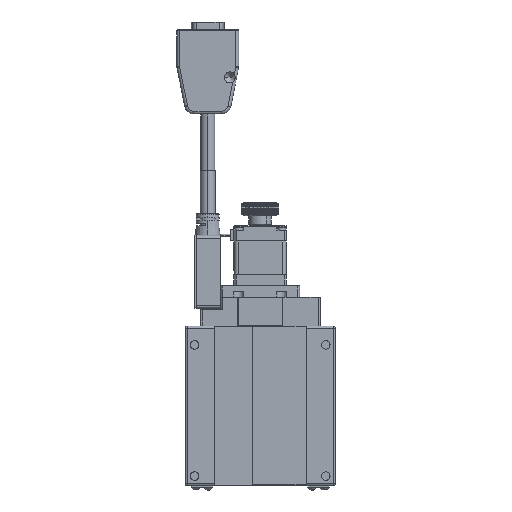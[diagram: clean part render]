
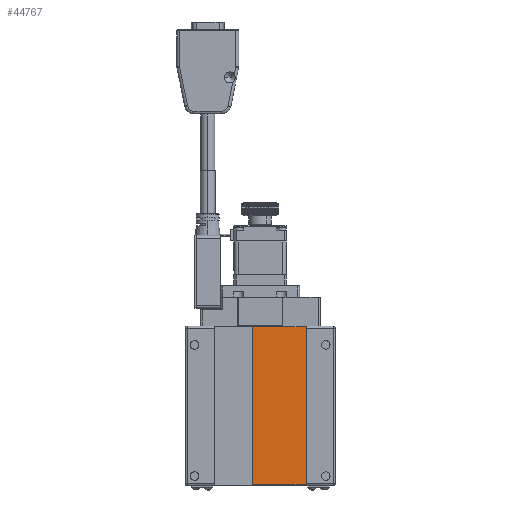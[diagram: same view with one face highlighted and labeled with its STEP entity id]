
A CAD part, front view. The second image highlights one B-rep face of the part: STEP entity #44767.
In plain terms, the highlighted planar face has unit normal (0, -1, 0).
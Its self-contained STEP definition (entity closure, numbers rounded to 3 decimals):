
#819 = DIRECTION ( 'NONE',  ( 1., 0., 0. ) ) ;
#1082 = VECTOR ( 'NONE', #17774, 1000. ) ;
#4040 = DIRECTION ( 'NONE',  ( 0., 1., 0. ) ) ;
#7931 = VECTOR ( 'NONE', #819, 1000. ) ;
#10798 = PLANE ( 'NONE',  #87408 ) ;
#12574 = VECTOR ( 'NONE', #79628, 1000. ) ;
#17774 = DIRECTION ( 'NONE',  ( -1., 0., 0. ) ) ;
#28338 = VERTEX_POINT ( 'NONE', #57038 ) ;
#30479 = CARTESIAN_POINT ( 'NONE',  ( 24.5, 0.3, 84.714 ) ) ;
#32304 = ORIENTED_EDGE ( 'NONE', *, *, #59022, .F. ) ;
#38008 = CARTESIAN_POINT ( 'NONE',  ( 24.5, 0.3, 85. ) ) ;
#38383 = CARTESIAN_POINT ( 'NONE',  ( 24.5, 0.3, 85. ) ) ;
#40054 = CARTESIAN_POINT ( 'NONE',  ( -4.1, 0.3, 0.286 ) ) ;
#44767 = ADVANCED_FACE ( 'NONE', ( #58736 ), #10798, .F. ) ;
#48386 = VECTOR ( 'NONE', #82114, 1000. ) ;
#48707 = EDGE_CURVE ( 'NONE', #28338, #78004, #79186, .T. ) ;
#51256 = LINE ( 'NONE', #30479, #1082 ) ;
#54648 = LINE ( 'NONE', #55518, #7931 ) ;
#55518 = CARTESIAN_POINT ( 'NONE',  ( -4.1, 0.3, 0.286 ) ) ;
#57038 = CARTESIAN_POINT ( 'NONE',  ( 24.5, 0.3, 84.714 ) ) ;
#58736 = FACE_OUTER_BOUND ( 'NONE', #69262, .T. ) ;
#59022 = EDGE_CURVE ( 'NONE', #76782, #75927, #81663, .T. ) ;
#69262 = EDGE_LOOP ( 'NONE', ( #32304, #88929, #89140, #70284 ) ) ;
#70284 = ORIENTED_EDGE ( 'NONE', *, *, #81764, .T. ) ;
#75417 = DIRECTION ( 'NONE',  ( 0., 0., 1. ) ) ;
#75927 = VERTEX_POINT ( 'NONE', #88224 ) ;
#76782 = VERTEX_POINT ( 'NONE', #40054 ) ;
#77596 = EDGE_CURVE ( 'NONE', #76782, #78004, #54648, .T. ) ;
#78004 = VERTEX_POINT ( 'NONE', #81674 ) ;
#79186 = LINE ( 'NONE', #38008, #12574 ) ;
#79628 = DIRECTION ( 'NONE',  ( 0., 0., -1. ) ) ;
#81663 = LINE ( 'NONE', #88906, #48386 ) ;
#81674 = CARTESIAN_POINT ( 'NONE',  ( 24.5, 0.3, 0.286 ) ) ;
#81764 = EDGE_CURVE ( 'NONE', #28338, #75927, #51256, .T. ) ;
#82114 = DIRECTION ( 'NONE',  ( 0., 0., 1. ) ) ;
#87408 = AXIS2_PLACEMENT_3D ( 'NONE', #38383, #4040, #75417 ) ;
#88224 = CARTESIAN_POINT ( 'NONE',  ( -4.1, 0.3, 84.714 ) ) ;
#88906 = CARTESIAN_POINT ( 'NONE',  ( -4.1, 0.3, 0. ) ) ;
#88929 = ORIENTED_EDGE ( 'NONE', *, *, #77596, .T. ) ;
#89140 = ORIENTED_EDGE ( 'NONE', *, *, #48707, .F. ) ;
